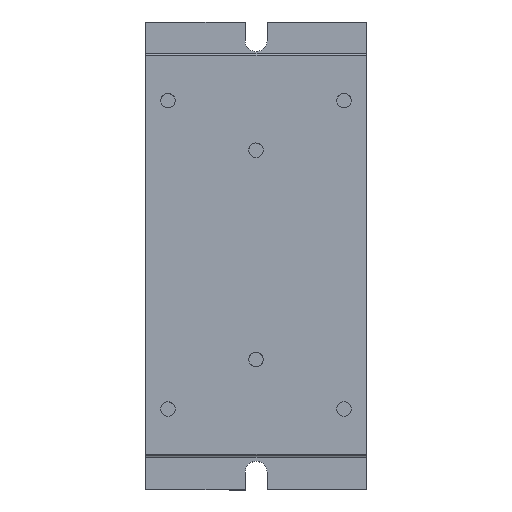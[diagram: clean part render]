
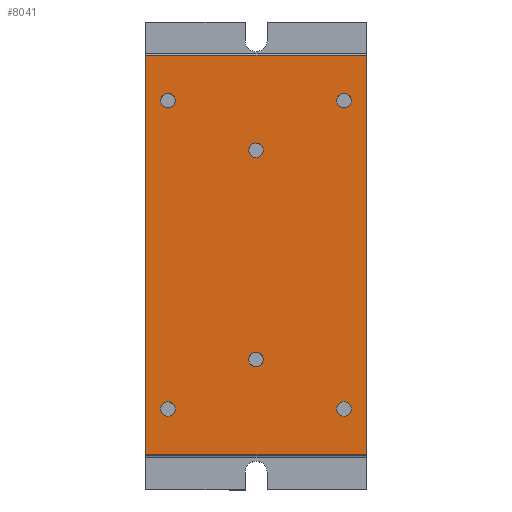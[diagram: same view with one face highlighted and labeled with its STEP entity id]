
A CAD part, top view. The second image highlights one B-rep face of the part: STEP entity #8041.
In plain terms, the highlighted planar face has unit normal (0, 0, 1).
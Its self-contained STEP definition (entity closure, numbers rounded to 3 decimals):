
#5 = DIRECTION ( 'NONE',  ( 0., 0., 1. ) ) ;
#18 = CIRCLE ( 'NONE', #3769, 1.65 ) ;
#28 = CARTESIAN_POINT ( 'NONE',  ( 45., 18.203, 95.8 ) ) ;
#66 = EDGE_CURVE ( 'NONE', #3603, #2343, #3581, .T. ) ;
#91 = CARTESIAN_POINT ( 'NONE',  ( 3.35, 18.203, 95.8 ) ) ;
#131 = AXIS2_PLACEMENT_3D ( 'NONE', #28, #7667, #1929 ) ;
#146 = FACE_BOUND ( 'NONE', #7251, .T. ) ;
#155 = DIRECTION ( 'NONE',  ( -1., 0., 0. ) ) ;
#188 = ORIENTED_EDGE ( 'NONE', *, *, #3915, .F. ) ;
#200 = CARTESIAN_POINT ( 'NONE',  ( 0., 7.953, 95.8 ) ) ;
#214 = CARTESIAN_POINT ( 'NONE',  ( 23.35, 76.953, 95.8 ) ) ;
#234 = FACE_OUTER_BOUND ( 'NONE', #4110, .T. ) ;
#265 = AXIS2_PLACEMENT_3D ( 'NONE', #1940, #1902, #1361 ) ;
#274 = AXIS2_PLACEMENT_3D ( 'NONE', #3362, #857, #897 ) ;
#306 = CARTESIAN_POINT ( 'NONE',  ( 26.65, 29.453, 95.8 ) ) ;
#378 = VERTEX_POINT ( 'NONE', #6546 ) ;
#525 = CARTESIAN_POINT ( 'NONE',  ( 0., 98.453, 95.8 ) ) ;
#559 = CIRCLE ( 'NONE', #3764, 1.65 ) ;
#569 = CARTESIAN_POINT ( 'NONE',  ( 23.35, 29.453, 95.8 ) ) ;
#658 = CARTESIAN_POINT ( 'NONE',  ( 5., 18.203, 95.8 ) ) ;
#730 = VERTEX_POINT ( 'NONE', #852 ) ;
#752 = ORIENTED_EDGE ( 'NONE', *, *, #4847, .F. ) ;
#813 = FACE_BOUND ( 'NONE', #1405, .T. ) ;
#850 = AXIS2_PLACEMENT_3D ( 'NONE', #4117, #2876, #8021 ) ;
#852 = CARTESIAN_POINT ( 'NONE',  ( 6.65, 18.203, 95.8 ) ) ;
#855 = EDGE_LOOP ( 'NONE', ( #752, #2416 ) ) ;
#857 = DIRECTION ( 'NONE',  ( 0., 0., -1. ) ) ;
#889 = EDGE_CURVE ( 'NONE', #4950, #1710, #4243, .T. ) ;
#897 = DIRECTION ( 'NONE',  ( 1., 0., 0. ) ) ;
#907 = EDGE_CURVE ( 'NONE', #378, #4616, #6196, .T. ) ;
#959 = DIRECTION ( 'NONE',  ( 0., 0., 1. ) ) ;
#975 = VERTEX_POINT ( 'NONE', #306 ) ;
#991 = ORIENTED_EDGE ( 'NONE', *, *, #7571, .F. ) ;
#1034 = CARTESIAN_POINT ( 'NONE',  ( 43.35, 18.203, 95.8 ) ) ;
#1039 = CARTESIAN_POINT ( 'NONE',  ( 26.65, 76.953, 95.8 ) ) ;
#1052 = VECTOR ( 'NONE', #155, 1000. ) ;
#1123 = DIRECTION ( 'NONE',  ( 0., 0., 1. ) ) ;
#1234 = CARTESIAN_POINT ( 'NONE',  ( 43.35, 88.203, 95.8 ) ) ;
#1260 = ORIENTED_EDGE ( 'NONE', *, *, #3285, .F. ) ;
#1302 = EDGE_CURVE ( 'NONE', #6415, #730, #6665, .T. ) ;
#1361 = DIRECTION ( 'NONE',  ( -1., 0., 0. ) ) ;
#1390 = VERTEX_POINT ( 'NONE', #3799 ) ;
#1405 = EDGE_LOOP ( 'NONE', ( #5480, #5054 ) ) ;
#1555 = ORIENTED_EDGE ( 'NONE', *, *, #1888, .F. ) ;
#1629 = EDGE_CURVE ( 'NONE', #1710, #1756, #3969, .T. ) ;
#1710 = VERTEX_POINT ( 'NONE', #7330 ) ;
#1738 = CARTESIAN_POINT ( 'NONE',  ( 25., 29.453, 95.8 ) ) ;
#1756 = VERTEX_POINT ( 'NONE', #3532 ) ;
#1786 = DIRECTION ( 'NONE',  ( -1., 0., 0. ) ) ;
#1888 = EDGE_CURVE ( 'NONE', #6200, #1390, #3883, .T. ) ;
#1902 = DIRECTION ( 'NONE',  ( 0., 0., 1. ) ) ;
#1929 = DIRECTION ( 'NONE',  ( -1., 0., 0. ) ) ;
#1940 = CARTESIAN_POINT ( 'NONE',  ( 45., 88.203, 95.8 ) ) ;
#1975 = CARTESIAN_POINT ( 'NONE',  ( 0., 47.407, 95.8 ) ) ;
#1991 = CIRCLE ( 'NONE', #4564, 1.65 ) ;
#2085 = FACE_BOUND ( 'NONE', #855, .T. ) ;
#2121 = VECTOR ( 'NONE', #4437, 1000. ) ;
#2154 = CARTESIAN_POINT ( 'NONE',  ( 0., 98.453, 95.8 ) ) ;
#2222 = DIRECTION ( 'NONE',  ( -1., 0., 0. ) ) ;
#2238 = EDGE_LOOP ( 'NONE', ( #5998, #1260 ) ) ;
#2264 = DIRECTION ( 'NONE',  ( -1., 0., 0. ) ) ;
#2343 = VERTEX_POINT ( 'NONE', #1039 ) ;
#2390 = DIRECTION ( 'NONE',  ( 0., 0., 1. ) ) ;
#2416 = ORIENTED_EDGE ( 'NONE', *, *, #2650, .F. ) ;
#2445 = DIRECTION ( 'NONE',  ( 0., 0., 1. ) ) ;
#2491 = CARTESIAN_POINT ( 'NONE',  ( 25., 29.453, 95.8 ) ) ;
#2515 = CARTESIAN_POINT ( 'NONE',  ( 25., 76.953, 95.8 ) ) ;
#2558 = VECTOR ( 'NONE', #6106, 1000. ) ;
#2571 = DIRECTION ( 'NONE',  ( -1., 0., 0. ) ) ;
#2650 = EDGE_CURVE ( 'NONE', #975, #3386, #1991, .T. ) ;
#2678 = FACE_BOUND ( 'NONE', #3804, .T. ) ;
#2762 = FACE_BOUND ( 'NONE', #2238, .T. ) ;
#2876 = DIRECTION ( 'NONE',  ( 0., 0., 1. ) ) ;
#3227 = CIRCLE ( 'NONE', #7890, 1.65 ) ;
#3269 = VERTEX_POINT ( 'NONE', #6097 ) ;
#3285 = EDGE_CURVE ( 'NONE', #2343, #3603, #559, .T. ) ;
#3295 = VERTEX_POINT ( 'NONE', #1234 ) ;
#3362 = CARTESIAN_POINT ( 'NONE',  ( 0., 98.453, 95.8 ) ) ;
#3386 = VERTEX_POINT ( 'NONE', #569 ) ;
#3532 = CARTESIAN_POINT ( 'NONE',  ( 0., 7.953, 95.8 ) ) ;
#3562 = ORIENTED_EDGE ( 'NONE', *, *, #5214, .F. ) ;
#3581 = CIRCLE ( 'NONE', #8246, 1.65 ) ;
#3587 = ORIENTED_EDGE ( 'NONE', *, *, #5460, .F. ) ;
#3603 = VERTEX_POINT ( 'NONE', #214 ) ;
#3764 = AXIS2_PLACEMENT_3D ( 'NONE', #2515, #4476, #7020 ) ;
#3769 = AXIS2_PLACEMENT_3D ( 'NONE', #658, #5149, #2571 ) ;
#3799 = CARTESIAN_POINT ( 'NONE',  ( 46.65, 18.203, 95.8 ) ) ;
#3804 = EDGE_LOOP ( 'NONE', ( #4042, #8067 ) ) ;
#3829 = CARTESIAN_POINT ( 'NONE',  ( 6.65, 88.203, 95.8 ) ) ;
#3841 = EDGE_CURVE ( 'NONE', #730, #6415, #18, .T. ) ;
#3846 = LINE ( 'NONE', #1975, #2121 ) ;
#3883 = CIRCLE ( 'NONE', #131, 1.65 ) ;
#3915 = EDGE_CURVE ( 'NONE', #1756, #7447, #3846, .T. ) ;
#3969 = LINE ( 'NONE', #200, #1052 ) ;
#3998 = FACE_BOUND ( 'NONE', #6080, .T. ) ;
#4042 = ORIENTED_EDGE ( 'NONE', *, *, #1302, .F. ) ;
#4110 = EDGE_LOOP ( 'NONE', ( #3587, #188, #7159, #4691 ) ) ;
#4117 = CARTESIAN_POINT ( 'NONE',  ( 5., 88.203, 95.8 ) ) ;
#4203 = DIRECTION ( 'NONE',  ( 0., -1., 0. ) ) ;
#4243 = LINE ( 'NONE', #7903, #4329 ) ;
#4308 = CIRCLE ( 'NONE', #6448, 1.65 ) ;
#4329 = VECTOR ( 'NONE', #4203, 1000. ) ;
#4353 = DIRECTION ( 'NONE',  ( 0., 0., 1. ) ) ;
#4437 = DIRECTION ( 'NONE',  ( 0., 1., 0. ) ) ;
#4476 = DIRECTION ( 'NONE',  ( 0., 0., 1. ) ) ;
#4487 = CARTESIAN_POINT ( 'NONE',  ( 50., 98.453, 95.8 ) ) ;
#4564 = AXIS2_PLACEMENT_3D ( 'NONE', #2491, #5, #7036 ) ;
#4616 = VERTEX_POINT ( 'NONE', #3829 ) ;
#4691 = ORIENTED_EDGE ( 'NONE', *, *, #889, .F. ) ;
#4700 = EDGE_CURVE ( 'NONE', #4616, #378, #5782, .T. ) ;
#4776 = DIRECTION ( 'NONE',  ( -1., 0., 0. ) ) ;
#4820 = EDGE_CURVE ( 'NONE', #1390, #6200, #3227, .T. ) ;
#4847 = EDGE_CURVE ( 'NONE', #3386, #975, #7354, .T. ) ;
#4897 = DIRECTION ( 'NONE',  ( -1., 0., 0. ) ) ;
#4934 = AXIS2_PLACEMENT_3D ( 'NONE', #7424, #2390, #2222 ) ;
#4950 = VERTEX_POINT ( 'NONE', #4487 ) ;
#5054 = ORIENTED_EDGE ( 'NONE', *, *, #4700, .F. ) ;
#5149 = DIRECTION ( 'NONE',  ( 0., 0., 1. ) ) ;
#5214 = EDGE_CURVE ( 'NONE', #3269, #3295, #4308, .T. ) ;
#5460 = EDGE_CURVE ( 'NONE', #7447, #4950, #6143, .T. ) ;
#5480 = ORIENTED_EDGE ( 'NONE', *, *, #907, .F. ) ;
#5782 = CIRCLE ( 'NONE', #7101, 1.65 ) ;
#5874 = CIRCLE ( 'NONE', #265, 1.65 ) ;
#5998 = ORIENTED_EDGE ( 'NONE', *, *, #66, .F. ) ;
#6077 = ORIENTED_EDGE ( 'NONE', *, *, #4820, .F. ) ;
#6080 = EDGE_LOOP ( 'NONE', ( #991, #3562 ) ) ;
#6097 = CARTESIAN_POINT ( 'NONE',  ( 46.65, 88.203, 95.8 ) ) ;
#6106 = DIRECTION ( 'NONE',  ( 1., 0., 0. ) ) ;
#6143 = LINE ( 'NONE', #2154, #2558 ) ;
#6196 = CIRCLE ( 'NONE', #850, 1.65 ) ;
#6200 = VERTEX_POINT ( 'NONE', #1034 ) ;
#6415 = VERTEX_POINT ( 'NONE', #91 ) ;
#6442 = AXIS2_PLACEMENT_3D ( 'NONE', #1738, #4353, #4897 ) ;
#6448 = AXIS2_PLACEMENT_3D ( 'NONE', #6866, #1123, #1786 ) ;
#6546 = CARTESIAN_POINT ( 'NONE',  ( 3.35, 88.203, 95.8 ) ) ;
#6629 = PLANE ( 'NONE',  #274 ) ;
#6665 = CIRCLE ( 'NONE', #4934, 1.65 ) ;
#6808 = DIRECTION ( 'NONE',  ( -1., 0., 0. ) ) ;
#6848 = CARTESIAN_POINT ( 'NONE',  ( 25., 76.953, 95.8 ) ) ;
#6866 = CARTESIAN_POINT ( 'NONE',  ( 45., 88.203, 95.8 ) ) ;
#7020 = DIRECTION ( 'NONE',  ( -1., 0., 0. ) ) ;
#7036 = DIRECTION ( 'NONE',  ( -1., 0., 0. ) ) ;
#7101 = AXIS2_PLACEMENT_3D ( 'NONE', #7933, #959, #4776 ) ;
#7159 = ORIENTED_EDGE ( 'NONE', *, *, #1629, .F. ) ;
#7251 = EDGE_LOOP ( 'NONE', ( #1555, #6077 ) ) ;
#7330 = CARTESIAN_POINT ( 'NONE',  ( 50., 7.953, 95.8 ) ) ;
#7354 = CIRCLE ( 'NONE', #6442, 1.65 ) ;
#7424 = CARTESIAN_POINT ( 'NONE',  ( 5., 18.203, 95.8 ) ) ;
#7447 = VERTEX_POINT ( 'NONE', #525 ) ;
#7512 = CARTESIAN_POINT ( 'NONE',  ( 45., 18.203, 95.8 ) ) ;
#7571 = EDGE_CURVE ( 'NONE', #3295, #3269, #5874, .T. ) ;
#7667 = DIRECTION ( 'NONE',  ( 0., 0., 1. ) ) ;
#7890 = AXIS2_PLACEMENT_3D ( 'NONE', #7512, #2445, #6808 ) ;
#7903 = CARTESIAN_POINT ( 'NONE',  ( 50., 47.407, 95.8 ) ) ;
#7933 = CARTESIAN_POINT ( 'NONE',  ( 5., 88.203, 95.8 ) ) ;
#7993 = DIRECTION ( 'NONE',  ( 0., 0., 1. ) ) ;
#8021 = DIRECTION ( 'NONE',  ( -1., 0., 0. ) ) ;
#8041 = ADVANCED_FACE ( 'NONE', ( #234, #2678, #146, #2085, #813, #2762, #3998 ), #6629, .F. ) ;
#8067 = ORIENTED_EDGE ( 'NONE', *, *, #3841, .F. ) ;
#8246 = AXIS2_PLACEMENT_3D ( 'NONE', #6848, #7993, #2264 ) ;
